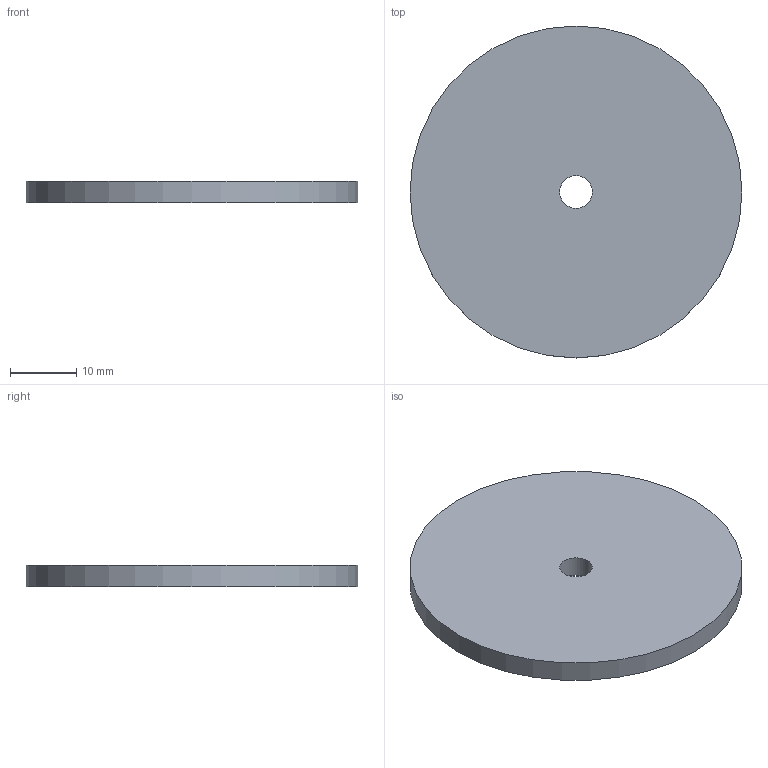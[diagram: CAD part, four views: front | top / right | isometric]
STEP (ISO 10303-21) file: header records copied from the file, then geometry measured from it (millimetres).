
FILE_DESCRIPTION((''),'2;1');
FILE_NAME('C:\TurckZip\TW-R50.stp','2007-11-12T10:03:44',('IKOROL'),(''),'Autodesk Inventor 2008','Autodesk Inventor 2008','');
FILE_SCHEMA(('AUTOMOTIVE_DESIGN { 1 2 10303 214 0 1 1 1 }'));
Length unit declared in the file: millimetre
Products named in the file (1): Part6
Bounding box: 50 x 50 x 3.2 mm (x, y, z)
Volume: 6222.8 mm3; surface area: 4441.2 mm2
Topology: 1 solids, 1 shells, 4 faces, 6 edges, 4 vertices
Faces by surface type: cylinder 2, plane 2
Full cylindrical faces by diameter (mm): 4.9 x1, 50 x1
Entity records: 114 total; most frequent: DIRECTION 18, CARTESIAN_POINT 13, AXIS2_PLACEMENT_3D 9, ORIENTED_EDGE 8, EDGE_LOOP 8, VERTEX_POINT 4, CIRCLE 4, EDGE_CURVE 4
